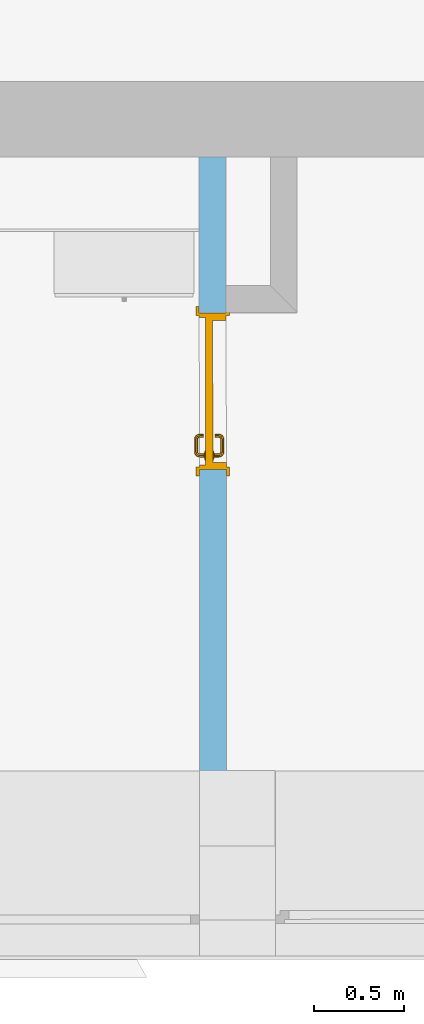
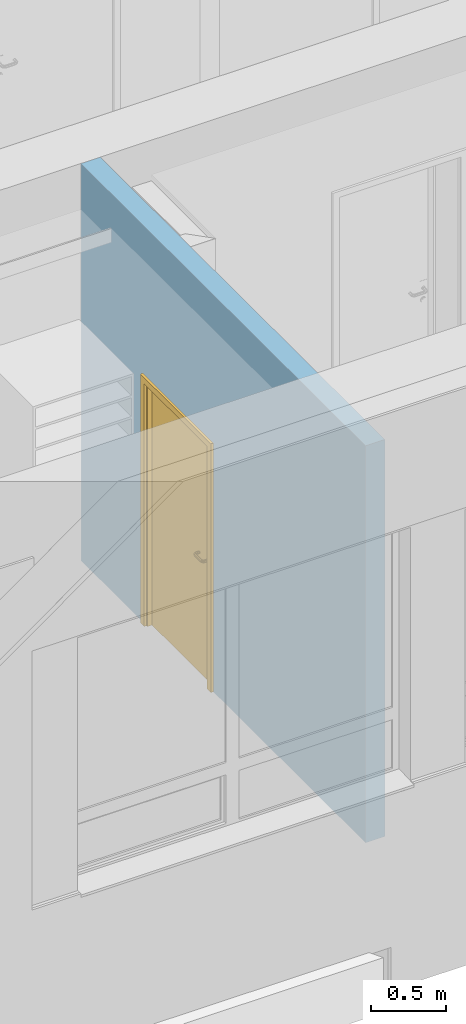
# One storey, part 51 of 194: 1 door, 1 opening, plus 1 element that does not belong to this part.
"""IFC2X3 building model written with IfcOpenShell, lengths in millimetres."""

import ifcopenshell
import ifcopenshell.guid

model = None  # the IFC model being written
_history = None  # IfcOwnerHistory: only IFC2X3 demands one
_inside = {}  # id of a spatial element -> (the spatial element, [elements in it])
_under = {}  # id of a project, library or spatial element -> (it, [spatial elements below it])
_declared = {}  # id of a project -> (the project, [libraries it declares])
_typed = {}  # id of a type object -> (the type object, [elements of that type])
_made_of = {}  # id of a material, layer set ... -> (it, [elements and type objects made of it])


def new_model(schema):
    """Start an empty IFC model of exactly this schema.

    Asked for "IFC4X3", IfcOpenShell would pick the latest addendum, in which some entities
    have other attributes; the version numbers below select the first issue.
    IFC2X3 requires an IfcOwnerHistory on every rooted entity: one is made here for all.
    """
    global model, _history
    if schema == "IFC4X3":
        model = ifcopenshell.file(schema_version=(4, 3, 0, 0))
    else:
        model = ifcopenshell.file(schema=schema)
    _inside.clear()
    _under.clear()
    _declared.clear()
    _typed.clear()
    _made_of.clear()
    _history = None
    if model.schema == "IFC2X3":
        org = make("IfcOrganization", Name="unknown")
        user = make(
            "IfcPersonAndOrganization",
            ThePerson=make("IfcPerson", FamilyName="unknown"),
            TheOrganization=org,
        )
        app = make(
            "IfcApplication",
            ApplicationDeveloper=org,
            Version="unknown",
            ApplicationFullName="unknown",
            ApplicationIdentifier="unknown",
        )
        _history = make(
            "IfcOwnerHistory",
            OwningUser=user,
            OwningApplication=app,
            ChangeAction="ADDED",
            CreationDate=0,
        )
    return model


def make(cls, **values):
    """One entity of the class cls with the attributes given. An attribute that is None is left unset."""
    return model.create_entity(
        cls, **{name: value for name, value in values.items() if value is not None}
    )


def entity(cls, *values):
    """Any entity or typed value of the class cls, its attributes in the order of the schema. None: left unset."""
    e = model.create_entity(cls)
    for i, value in enumerate(values):
        if value is not None:
            e[i] = value
    return e


def rooted(cls, **values):
    """An entity with a GlobalId (a new one), such as an element, a storey or a relation."""
    return make(cls, GlobalId=ifcopenshell.guid.new(), OwnerHistory=_history, **values)


def si_unit(unit_type, name, prefix=None):
    """IfcSIUnit, for example si_unit("LENGTHUNIT", "METRE", prefix="MILLI")."""
    return make("IfcSIUnit", UnitType=unit_type, Prefix=prefix, Name=name)


def converted_unit(unit_type, name, factor, base, dimensions=None, offset=None):
    """IfcConversionBasedUnit, such as the inch: factor (a typed value) times the base unit."""
    return make(
        "IfcConversionBasedUnit"
        if offset is None
        else "IfcConversionBasedUnitWithOffset",
        ConversionOffset=offset,
        Dimensions=None
        if dimensions is None
        else entity("IfcDimensionalExponents", *dimensions),
        UnitType=unit_type,
        Name=name,
        ConversionFactor=make(
            "IfcMeasureWithUnit", ValueComponent=factor, UnitComponent=base
        ),
    )


def derived_unit(unit_type, elements):
    """IfcDerivedUnit: a product of units, each with its exponent."""
    return make(
        "IfcDerivedUnit",
        Elements=[
            make("IfcDerivedUnitElement", Unit=unit, Exponent=power)
            for unit, power in elements
        ],
        UnitType=unit_type,
    )


def money_unit(currency):
    """IfcMonetaryUnit."""
    return make("IfcMonetaryUnit", Currency=currency)


def assignment(units):
    """IfcUnitAssignment: the units of a project."""
    return None if units is None else make("IfcUnitAssignment", Units=units)


def point(xyz):
    """IfcCartesianPoint."""
    return None if xyz is None else make("IfcCartesianPoint", Coordinates=xyz)


def direction(xyz):
    """IfcDirection."""
    return None if xyz is None else make("IfcDirection", DirectionRatios=xyz)


def frame(location, z_axis=None, x_axis=None):
    """IfcAxis2Placement3D, a coordinate frame: its origin and axes. An axis left out is left unset."""
    return make(
        "IfcAxis2Placement3D",
        Location=point(location),
        Axis=direction(z_axis),
        RefDirection=direction(x_axis),
    )


def frame_2d(location, x_axis=None):
    """IfcAxis2Placement2D, a coordinate frame in the plane: its origin and x axis."""
    return make(
        "IfcAxis2Placement2D", Location=point(location), RefDirection=direction(x_axis)
    )


def origin_with_axes():
    """The frame at (0, 0, 0) with the z axis (0, 0, 1) and the x axis (1, 0, 0) written out."""
    return frame((0.0, 0.0, 0.0), z_axis=(0.0, 0.0, 1.0), x_axis=(1.0, 0.0, 0.0))


def origin_2d_with_axis():
    """The frame at (0, 0) in the plane with the x axis (1, 0) written out."""
    return frame_2d((0.0, 0.0), x_axis=(1.0, 0.0))


def place(relative_to, where):
    """IfcLocalPlacement: puts the frame where relative to a parent placement (None: the world)."""
    return make(
        "IfcLocalPlacement", PlacementRelTo=relative_to, RelativePlacement=where
    )


def context(
    kind, dimensions, precision=None, world=None, true_north=None, identifier=None
):
    """IfcGeometricRepresentationContext, for example the 3D "Model" context."""
    return make(
        "IfcGeometricRepresentationContext",
        ContextIdentifier=identifier,
        ContextType=kind,
        CoordinateSpaceDimension=dimensions,
        Precision=precision,
        WorldCoordinateSystem=world,
        TrueNorth=true_north,
    )


def subcontext(parent, identifier, kind, view, scale=None):
    """IfcGeometricRepresentationSubContext, for example "Body" below "Model"."""
    return make(
        "IfcGeometricRepresentationSubContext",
        ContextIdentifier=identifier,
        ContextType=kind,
        ParentContext=parent,
        TargetScale=scale,
        TargetView=view,
    )


def project(units=None, contexts=None):
    """IfcProject with its units and contexts."""
    return rooted(
        "IfcProject",
        Name="project",
        RepresentationContexts=contexts,
        UnitsInContext=assignment(units),
    )


def spatial(cls, under=None, at=None, **own):
    """A site, building, storey or space (cls), placed at a placement, below another one or the project."""
    s = rooted(cls, ObjectPlacement=at, **own)
    if under is not None:
        _under.setdefault(under.id(), (under, []))[1].append(s)
    return s


def polyline(points):
    """IfcPolyline through the points."""
    return make("IfcPolyline", Points=[point(p) for p in points])


def profile(cls, at=None, kind="AREA", **sizes):
    """A parametric profile (cls). Its sizes go by their IFC names, for example OverallWidth=200.0."""
    return make(cls, ProfileType=kind, Position=at, **sizes)


def rectangle(**sizes):
    """IfcRectangleProfileDef."""
    return profile("IfcRectangleProfileDef", **sizes)


def outline(outer, holes=None, kind="AREA"):
    """IfcArbitraryClosedProfileDef: a profile drawn as a closed curve; with holes, ...WithVoids."""
    if holes is None:
        return make("IfcArbitraryClosedProfileDef", ProfileType=kind, OuterCurve=outer)
    return make(
        "IfcArbitraryProfileDefWithVoids",
        ProfileType=kind,
        OuterCurve=outer,
        InnerCurves=holes,
    )


def extrude(swept, where, along, depth):
    """IfcExtrudedAreaSolid: the profile swept, set in the frame where, extruded along a direction by depth."""
    return make(
        "IfcExtrudedAreaSolid",
        SweptArea=swept,
        Position=where,
        ExtrudedDirection=direction(along),
        Depth=depth,
    )


def faces_of(points, faces, orient=None, outer=None):
    """IfcFace entities. A face is a list of loops; a loop is a list of indices into points, from 0.

    orient and outer hold one flag for each loop. By default every Orientation is true, the
    first loop of a face is its IfcFaceOuterBound and the others are IfcFaceBound.
    """
    made = []
    for i, loops in enumerate(faces):
        bounds = []
        for j, loop in enumerate(loops):
            is_outer = j == 0 if outer is None else outer[i][j]
            bounds.append(
                make(
                    "IfcFaceOuterBound" if is_outer else "IfcFaceBound",
                    Bound=make("IfcPolyLoop", Polygon=[points[k] for k in loop]),
                    Orientation=True if orient is None else orient[i][j],
                )
            )
        made.append(make("IfcFace", Bounds=bounds))
    return made


def open_shell(faces, orient=None, outer=None):
    """The faces of one IfcOpenShell. surface_model builds it on its shared points."""
    return ("IfcOpenShell", faces, orient, outer)


def faceted_brep(points, faces, orient=None, outer=None, voids=None):
    """IfcFacetedBrep: a solid bounded by flat faces; with voids (closed shells), ...WithVoids."""
    shared = [point(p) for p in points]
    hull = make("IfcClosedShell", CfsFaces=faces_of(shared, faces, orient, outer))
    if voids is None:
        return make("IfcFacetedBrep", Outer=hull)
    return make(
        "IfcFacetedBrepWithVoids",
        Outer=hull,
        Voids=[
            make(cls, CfsFaces=faces_of(shared, fs, o, b)) for cls, fs, o, b in voids
        ],
    )


def surface_model(cls, points, shells):
    """IfcFaceBasedSurfaceModel or IfcShellBasedSurfaceModel (cls): surfaces that need not close."""
    shared = [point(p) for p in points]
    made = [make(c, CfsFaces=faces_of(shared, fs, o, b)) for c, fs, o, b in shells]
    if cls == "IfcFaceBasedSurfaceModel":
        return make(cls, FbsmFaces=made)
    return make(cls, SbsmBoundary=made)


def shape(context_of_items, identifier, shape_type, items):
    """IfcShapeRepresentation: the items that make up one representation, for example the "Body"."""
    return make(
        "IfcShapeRepresentation",
        ContextOfItems=context_of_items,
        RepresentationIdentifier=identifier,
        RepresentationType=shape_type,
        Items=items,
    )


def material(Name=None, Category=None):
    """IfcMaterial."""
    return make("IfcMaterial", Name=Name, Category=Category)


def layer(
    of_material, thickness, ventilated=None, Name=None, Category=None, Priority=None
):
    """IfcMaterialLayer: one layer of a wall or slab, of a material (None: an air gap)."""
    return make(
        "IfcMaterialLayer",
        Material=of_material,
        LayerThickness=thickness,
        IsVentilated=ventilated,
        Name=Name,
        Category=Category,
        Priority=Priority,
    )


def layer_set(layers, Name=None):
    """IfcMaterialLayerSet."""
    return make("IfcMaterialLayerSet", MaterialLayers=layers, LayerSetName=Name)


def layer_usage(for_layer_set, set_direction, sense, offset, extent=None):
    """IfcMaterialLayerSetUsage: how a layer set lies in its element."""
    return make(
        "IfcMaterialLayerSetUsage",
        ForLayerSet=for_layer_set,
        LayerSetDirection=set_direction,
        DirectionSense=sense,
        OffsetFromReferenceLine=offset,
        ReferenceExtent=extent,
    )


def made_of(thing, what):
    """Note that an element or type object is made of a material, layer set ...; save() writes the relation."""
    if what is not None:
        _made_of.setdefault(what.id(), (what, []))[1].append(thing)
    return thing


def type_object(cls, material=None, **own):
    """A type object (cls), such as IfcWallType, which elements share."""
    return made_of(rooted(cls, **own), material)


def element(
    cls,
    number,
    at=None,
    inside=None,
    cuts=None,
    type_object=None,
    material=None,
    context=None,
    identifier="Body",
    shape_type=None,
    held_by="IfcProductDefinitionShape",
    body=None,
    shapes=None,
    **own,
):
    """One element of the class cls, such as IfcWall. Its Tag is "e" and its number.

    at: its placement. inside: the storey or other place that contains it. cuts: it is an
    opening in that element (IfcRelVoidsElement). A single representation is given by context,
    identifier, shape_type and body (its items); several are given by shapes. held_by: the class
    of the entity that holds the representations. save() writes the other relations.
    """
    e = rooted(cls, Tag="e%d" % number, ObjectPlacement=at, **own)
    if body is not None:
        shapes = [shape(context, identifier, shape_type, body)]
    if shapes is not None:
        e.Representation = make(held_by, Representations=shapes)
    if inside is not None:
        _inside.setdefault(inside.id(), (inside, []))[1].append(e)
    if cuts is not None:
        rooted(
            "IfcRelVoidsElement", RelatingBuildingElement=cuts, RelatedOpeningElement=e
        )
    if type_object is not None:
        _typed.setdefault(type_object.id(), (type_object, []))[1].append(e)
    return made_of(e, material)


def fill(opening, filler):
    """IfcRelFillsElement: the door or window that sits in an opening."""
    return rooted(
        "IfcRelFillsElement",
        RelatingOpeningElement=opening,
        RelatedBuildingElement=filler,
    )


def aggregate(whole, parts):
    """IfcRelAggregates: a whole, such as a stair, and the parts it consists of."""
    return rooted("IfcRelAggregates", RelatingObject=whole, RelatedObjects=parts)


def save(model, path):
    """Write the relations noted so far, then the file.

    IfcRelAggregates (storeys below a building ...), IfcRelContainedInSpatialStructure (elements
    in a storey), IfcRelDefinesByType, IfcRelAssociatesMaterial and IfcRelDeclares: one each for
    every whole, place, type object, material and project.
    """
    for whole, parts in _under.values():
        aggregate(whole, parts)
    for where, things in _inside.values():
        rooted(
            "IfcRelContainedInSpatialStructure",
            RelatedElements=things,
            RelatingStructure=where,
        )
    for kind, things in _typed.values():
        rooted("IfcRelDefinesByType", RelatedObjects=things, RelatingType=kind)
    for what, things in _made_of.values():
        rooted("IfcRelAssociatesMaterial", RelatedObjects=things, RelatingMaterial=what)
    for by, libraries in _declared.values():
        rooted("IfcRelDeclares", RelatingContext=by, RelatedDefinitions=libraries)
    model.write(path)


model = new_model("IFC2X3")

# Units and contexts
model_context = context("Model", 3, precision=1e-05, world=origin_with_axes(), true_north=direction((0.0, 1.0)))
body_context = subcontext(model_context, "Body", "Model", "MODEL_VIEW")
ifc_project = project(units=[si_unit("LENGTHUNIT", "METRE", prefix="MILLI"), si_unit("AREAUNIT", "SQUARE_METRE"), si_unit("VOLUMEUNIT", "CUBIC_METRE"), converted_unit("PLANEANGLEUNIT", "DEGREE", entity("IfcPlaneAngleMeasure", 0.0174532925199), si_unit("PLANEANGLEUNIT", "RADIAN"), dimensions=[0, 0, 0, 0, 0, 0, 0]), si_unit("SOLIDANGLEUNIT", "STERADIAN"), money_unit("EUR"), converted_unit("TIMEUNIT", "Year", entity("IfcTimeMeasure", 31556926.0), si_unit("TIMEUNIT", "SECOND"), dimensions=[0, 0, 1, 0, 0, 0, 0]), si_unit("MASSUNIT", "GRAM", prefix="KILO"), si_unit("THERMODYNAMICTEMPERATUREUNIT", "DEGREE_CELSIUS"), si_unit("LUMINOUSINTENSITYUNIT", "LUMEN"), si_unit("ENERGYUNIT", "JOULE", prefix="MEGA"), derived_unit("THERMALCONDUCTANCEUNIT", [(si_unit("POWERUNIT", "WATT"), 1), (si_unit("LENGTHUNIT", "METRE"), -1), (si_unit("THERMODYNAMICTEMPERATUREUNIT", "KELVIN"), -1)]), derived_unit("SPECIFICHEATCAPACITYUNIT", [(si_unit("ENERGYUNIT", "JOULE"), 1), (si_unit("MASSUNIT", "GRAM", prefix="KILO"), -1), (si_unit("THERMODYNAMICTEMPERATUREUNIT", "KELVIN"), -1)]), derived_unit("MASSDENSITYUNIT", [(si_unit("MASSUNIT", "GRAM", prefix="KILO"), 1), (si_unit("VOLUMEUNIT", "CUBIC_METRE"), -1)])], contexts=[model_context])

# Site, building, storey
site_placement = place(None, origin_with_axes())
site = spatial("IfcSite", under=ifc_project, at=site_placement, Name="Site", CompositionType="ELEMENT")
building_placement = place(site_placement, origin_with_axes())
building = spatial("IfcBuilding", under=site, at=building_placement, Name="Building", CompositionType="ELEMENT")
storey_placement = place(building_placement, frame((0.0, 0.0, 3000.0), z_axis=(0.0, 0.0, 1.0), x_axis=(1.0, 0.0, 0.0)))
storey = spatial("IfcBuildingStorey", under=building, at=storey_placement, Name="2 KORRUS", CompositionType="ELEMENT", Elevation=3000.0)

# Wall, opening, door
ifc_material = material(Name="Kivi -Ol.Olev Konstruktsioon")
ifc_layer = layer(ifc_material, 150.0, ventilated="UNKNOWN")
ifc_layer_set = layer_set([ifc_layer], Name="ol.olev ss 150")
ifc_layer_usage = layer_usage(ifc_layer_set, "AXIS2", "POSITIVE", 0.0)
wall_type = type_object("IfcWallType", Name="SW - 022", PredefinedType="NOTDEFINED")
wall_placement = place(storey_placement, frame((21732.1185397, 39014.3351234, 0.0), z_axis=(0.0, 0.0, 1.0), x_axis=(0.000797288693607, -0.999999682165, 0.0)))
wall = element("IfcWallStandardCase", 1, at=wall_placement, inside=storey, type_object=wall_type, material=ifc_layer_usage, Name="ol.olev ss 150", context=body_context, shape_type="SweptSolid", body=[
    extrude(outline(polyline([(420.000133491, 0.0), (4234.39508937, -1.13686837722e-10), (4234.50189613, 150.0), (420.119726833, 150.0), (420.000133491, 0.0)])), origin_with_axes(), (0.0, 0.0, 1.0), 3250.0),
])
opening_placement = place(wall_placement, frame((1722.56035025, 0.0, 0.0), z_axis=(0.0, 0.0, 1.0), x_axis=(1.0, 0.0, 0.0)))
opening = element("IfcOpeningElement", 2, at=opening_placement, cuts=wall, Name="Siseuks * Door 22", context=body_context, shape_type="SweptSolid", body=[
    extrude(rectangle(XDim=870.0, YDim=2000.0, at=origin_2d_with_axis()), frame((-9.09494701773e-10, -150.0, 1000.0), z_axis=(0.0, 1.0, 0.0), x_axis=(-1.0, 0.0, 0.0)), (0.0, 0.0, 1.0), 450.0),
    extrude(rectangle(XDim=944.0, YDim=2037.0, at=origin_2d_with_axis()), frame((-9.09494701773e-10, 0.0, 1018.5), z_axis=(0.0, 1.0, 0.0), x_axis=(-1.0, 0.0, 0.0)), (0.0, 0.0, -1.0), 150.0),
    extrude(rectangle(XDim=944.0, YDim=2037.0, at=origin_2d_with_axis()), frame((0.0, 150.0, 1018.5), z_axis=(0.0, -1.0, 0.0), x_axis=(-1.0, 0.0, 0.0)), (0.0, 0.0, -1.0), 150.0),
])
door_style = type_object("IfcDoorStyle", Name="SU-B204   870×2\xa0000", ConstructionType="NOTDEFINED", OperationType="SINGLE_SWING_RIGHT", ParameterTakesPrecedence=False, Sizeable=False)
door_placement = place(opening_placement, frame((434.999999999, 1.13686837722e-10, 0.0), z_axis=(0.0, 0.0, 1.0), x_axis=(-1.0, 0.0, 0.0)))
door = element("IfcDoor", 3, at=door_placement, inside=storey, type_object=door_style, Name="Siseuks * Door 22", OverallHeight=2000.0, OverallWidth=870.0, context=body_context, shape_type="SurfaceModel", body=[
    faceted_brep([(0.0, -35.0, 0.0), (0.0, 0.0, 0.0), (24.9999999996, 1.13686837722e-10, 0.0), (24.9999999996, -35.0, 0.0), (0.0, -35.0, 2000.0), (0.0, 0.0, 2000.0), (24.9999999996, 1.13686837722e-10, 1975.0), (24.9999999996, -35.0, 1975.0)], [[[0, 1, 2, 3]], [[4, 5, 1, 0]], [[1, 5, 6, 2]], [[3, 2, 6, 7]], [[0, 3, 7, 4]], [[7, 6, 5, 4]]]),
    faceted_brep([(869.999999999, -34.9999999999, 2000.0), (870.0, 0.0, 2000.0), (845.0, 1.13686837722e-10, 1975.0), (844.999999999, -35.0, 1975.0), (869.999999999, -34.9999999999, 0.0), (870.0, 0.0, 0.0), (845.0, 1.13686837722e-10, 0.0), (844.999999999, -35.0, 0.0)], [[[0, 1, 2, 3]], [[4, 5, 1, 0]], [[1, 5, 6, 2]], [[3, 2, 6, 7]], [[0, 3, 7, 4]], [[7, 6, 5, 4]]]),
    faceted_brep([(24.9999999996, -35.0, 1975.0), (24.9999999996, 1.13686837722e-10, 1975.0), (845.0, 1.13686837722e-10, 1975.0), (844.999999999, -35.0, 1975.0), (0.0, -35.0, 2000.0), (0.0, 0.0, 2000.0), (870.0, 0.0, 2000.0), (869.999999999, -34.9999999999, 2000.0)], [[[0, 1, 2, 3]], [[4, 5, 1, 0]], [[1, 5, 6, 2]], [[3, 2, 6, 7]], [[0, 3, 7, 4]], [[7, 6, 5, 4]]]),
    faceted_brep([(-37.0000000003, 19.0, 0.0), (12.9999999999, 19.0, 0.0), (12.9999999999, 1.13686837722e-10, 0.0), (-36.9999999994, 1.13686837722e-10, 0.0), (-37.0000000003, 19.0, 2037.0), (12.9999999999, 19.0, 1987.0), (12.9999999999, 1.13686837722e-10, 1987.0), (-36.9999999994, 1.13686837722e-10, 2037.0)], [[[0, 1, 2, 3]], [[0, 4, 5, 1]], [[1, 5, 6, 2]], [[3, 2, 6, 7]], [[4, 0, 3, 7]], [[5, 4, 7, 6]]]),
    faceted_brep([(907.0, 19.0, 2037.0), (857.0, 19.0, 1987.0), (856.999999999, 1.13686837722e-10, 1987.0), (907.0, 1.13686837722e-10, 2037.0), (907.0, 19.0, 0.0), (857.0, 19.0, 0.0), (856.999999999, 1.13686837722e-10, 0.0), (907.0, 1.13686837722e-10, 0.0)], [[[0, 1, 2, 3]], [[0, 4, 5, 1]], [[1, 5, 6, 2]], [[3, 2, 6, 7]], [[4, 0, 3, 7]], [[5, 4, 7, 6]]]),
    faceted_brep([(-37.0000000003, 19.0, 2037.0), (12.9999999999, 19.0, 1987.0), (12.9999999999, 1.13686837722e-10, 1987.0), (-36.9999999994, 1.13686837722e-10, 2037.0), (907.0, 19.0, 2037.0), (857.0, 19.0, 1987.0), (856.999999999, 1.13686837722e-10, 1987.0), (907.0, 1.13686837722e-10, 2037.0)], [[[0, 1, 2, 3]], [[0, 4, 5, 1]], [[1, 5, 6, 2]], [[3, 2, 6, 7]], [[4, 0, 3, 7]], [[5, 4, 7, 6]]]),
    faceted_brep([(-36.9999999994, -169.0, 0.0), (-37.0000000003, -150.0, 0.0), (12.9999999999, -150.0, 0.0), (12.9999999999, -169.0, 0.0), (-36.9999999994, -169.0, 2037.0), (-37.0000000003, -150.0, 2037.0), (12.9999999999, -150.0, 1987.0), (12.9999999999, -169.0, 1987.0)], [[[0, 1, 2, 3]], [[4, 5, 1, 0]], [[1, 5, 6, 2]], [[3, 2, 6, 7]], [[0, 3, 7, 4]], [[7, 6, 5, 4]]]),
    faceted_brep([(907.0, -169.0, 2037.0), (907.0, -150.0, 2037.0), (857.0, -150.0, 1987.0), (856.999999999, -169.0, 1987.0), (907.0, -169.0, 0.0), (907.0, -150.0, 0.0), (857.0, -150.0, 0.0), (856.999999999, -169.0, 0.0)], [[[0, 1, 2, 3]], [[4, 5, 1, 0]], [[1, 5, 6, 2]], [[3, 2, 6, 7]], [[0, 3, 7, 4]], [[7, 6, 5, 4]]]),
    faceted_brep([(-36.9999999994, -169.0, 2037.0), (-37.0000000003, -150.0, 2037.0), (12.9999999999, -150.0, 1987.0), (12.9999999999, -169.0, 1987.0), (907.0, -169.0, 2037.0), (907.0, -150.0, 2037.0), (857.0, -150.0, 1987.0), (856.999999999, -169.0, 1987.0)], [[[0, 1, 2, 3]], [[4, 5, 1, 0]], [[1, 5, 6, 2]], [[3, 2, 6, 7]], [[0, 3, 7, 4]], [[7, 6, 5, 4]]]),
    faceted_brep([(40.0, -74.9999999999, 0.0), (40.0, -74.9999999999, 1960.0), (39.9999999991, -150.0, 1960.0), (39.9999999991, -150.0, 0.0), (28.0000000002, -74.9999999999, 1960.0), (28.0000000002, -74.9999999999, 0.0), (28.0000000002, -35.0, 1960.0), (0.0, -35.0, 1960.0), (0.0, -150.0, 1960.0), (0.0, -150.0, 0.0), (0.0, -35.0, 0.0), (28.0000000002, -35.0, 0.0)], [[[0, 1, 2, 3]], [[4, 1, 0, 5]], [[4, 6, 7, 8, 2, 1]], [[3, 2, 8, 9]], [[5, 0, 3, 9, 10, 11]], [[6, 4, 5, 11]], [[6, 11, 10, 7]], [[10, 9, 8, 7]]]),
    faceted_brep([(842.0, -75.0, 1960.0), (830.0, -74.9999999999, 1960.0), (830.0, -150.0, 1960.0), (870.0, -150.0, 1960.0), (869.999999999, -34.9999999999, 1960.0), (842.0, -35.0, 1960.0), (842.0, -75.0, 0.0), (830.0, -74.9999999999, 0.0), (830.0, -150.0, 0.0), (870.0, -150.0, 0.0), (869.999999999, -34.9999999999, 0.0), (842.0, -35.0, 0.0)], [[[0, 1, 2, 3, 4, 5]], [[1, 0, 6, 7]], [[1, 7, 8, 2]], [[3, 2, 8, 9]], [[4, 3, 9, 10]], [[11, 5, 4, 10]], [[0, 5, 11, 6]], [[6, 11, 10, 9, 8, 7]]]),
    faceted_brep([(28.0000000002, -35.0, 1972.0), (28.0000000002, -35.0, 1960.0), (0.0, -35.0, 1960.0), (0.0, -35.0, 2000.0), (869.999999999, -34.9999999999, 2000.0), (869.999999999, -34.9999999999, 1960.0), (842.0, -35.0, 1960.0), (842.0, -35.0, 1972.0), (28.0000000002, -74.9999999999, 1972.0), (28.0000000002, -74.9999999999, 1960.0), (40.0, -74.9999999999, 1960.0), (39.9999999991, -150.0, 1960.0), (0.0, -150.0, 1960.0), (0.0, -150.0, 2000.0), (870.0, -150.0, 2000.0), (870.0, -150.0, 1960.0), (842.0, -75.0, 1960.0), (830.0, -150.0, 1960.0), (830.0, -74.9999999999, 1960.0), (842.0, -75.0, 1972.0)], [[[0, 1, 2, 3, 4, 5, 6, 7]], [[1, 0, 8, 9]], [[9, 10, 11, 12, 2, 1]], [[2, 12, 13, 3]], [[3, 13, 14, 4]], [[4, 14, 15, 5]], [[16, 6, 5, 15, 17, 18]], [[7, 6, 16, 19]], [[0, 7, 19, 8]], [[16, 18, 10, 9, 8, 19]], [[10, 18, 17, 11]], [[17, 15, 14, 13, 12, 11]]]),
    faceted_brep([(49.4999999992, -74.9999999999, 1060.0), (49.5000000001, -78.0, 1060.0), (106.499999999, -77.9999999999, 1060.0), (106.5, -74.9999999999, 1060.0), (49.4999999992, -74.9999999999, 870.0), (49.5000000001, -78.0, 870.0), (106.499999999, -77.9999999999, 870.0), (106.5, -74.9999999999, 870.0)], [[[0, 1, 2, 3]], [[4, 5, 1, 0]], [[1, 5, 6, 2]], [[3, 2, 6, 7]], [[0, 3, 7, 4]], [[7, 6, 5, 4]]]),
    surface_model("IfcShellBasedSurfaceModel", [(87.9999999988, -88.0, 1000.0), (87.9999999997, -107.015085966, 1000.0), (85.0710678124, -107.303560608, 992.928932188), (85.0710678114, -87.9999999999, 992.928932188), (85.0710678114, -87.9999999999, 1007.07106781), (85.0710678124, -107.303560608, 1007.07106781), (88.9422033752, -111.751862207, 1000.0), (86.1832095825, -112.894674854, 992.928932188), (78.0000000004, -108.0, 990.0), (77.9999999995, -88.0, 990.0), (77.9999999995, -88.0, 1010.0), (78.0000000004, -108.0, 1010.0), (86.1832095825, -112.894674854, 1007.07106781), (91.0674625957, -114.932537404, 1000.0), (88.955820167, -117.044179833, 992.928932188), (79.522409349, -115.653668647, 990.0), (70.9289321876, -108.696439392, 992.928932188), (70.9289321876, -88.0, 992.928932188), (70.9289321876, -88.0, 1007.07106781), (70.9289321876, -108.696439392, 1007.07106781), (79.522409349, -115.653668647, 1010.0), (88.955820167, -117.044179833, 1007.07106781), (94.2481377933, -117.057796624, 1000.0), (93.1053251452, -119.816790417, 992.928932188), (83.8578643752, -122.142135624, 990.0), (72.8616091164, -118.41266244, 992.928932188), (67.9999999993, -108.984914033, 1000.0), (68.0000000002, -88.0, 1000.0), (72.8616091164, -118.41266244, 1007.07106781), (83.8578643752, -122.142135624, 1010.0), (93.1053251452, -119.816790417, 1007.07106781), (98.9849140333, -118.0, 1000.0), (98.6964393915, -120.928932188, 992.928932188), (90.3463313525, -126.47759065, 990.0), (78.7599085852, -127.240091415, 992.928932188), (70.1026153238, -119.555475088, 1000.0), (78.7599085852, -127.240091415, 1007.07106781), (90.3463313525, -126.47759065, 1010.0), (98.6964393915, -120.928932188, 1007.07106781), (167.015085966, -118.0, 1000.0), (167.303560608, -120.928932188, 992.928932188), (98.0, -128.0, 990.0), (87.5873375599, -133.138390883, 992.928932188), (76.6482661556, -129.351733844, 1000.0), (87.5873375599, -133.138390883, 1007.07106781), (98.0, -128.0, 1010.0), (167.303560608, -120.928932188, 1007.07106781), (171.751862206, -117.057796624, 1000.0), (172.894674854, -119.816790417, 992.928932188), (168.0, -128.0, 990.0), (97.3035606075, -135.071067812, 992.928932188), (86.4445249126, -135.897384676, 1000.0), (97.3035606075, -135.071067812, 1007.07106781), (168.0, -128.0, 1010.0), (172.894674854, -119.816790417, 1007.07106781), (174.932537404, -114.932537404, 1000.0), (177.044179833, -117.044179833, 992.928932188), (175.653668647, -126.47759065, 990.0), (168.696439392, -135.071067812, 992.928932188), (97.0150859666, -138.0, 1000.0), (168.696439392, -135.071067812, 1007.07106781), (175.653668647, -126.47759065, 1010.0), (177.044179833, -117.044179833, 1007.07106781), (177.057796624, -111.751862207, 1000.0), (179.816790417, -112.894674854, 992.928932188), (182.142135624, -122.142135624, 990.0), (178.412662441, -133.138390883, 992.928932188), (168.984914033, -138.0, 1000.0), (178.412662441, -133.138390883, 1007.07106781), (182.142135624, -122.142135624, 1010.0), (179.816790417, -112.894674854, 1007.07106781), (177.999999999, -107.015085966, 1000.0), (180.928932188, -107.303560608, 992.928932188), (186.47759065, -115.653668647, 990.0), (187.240091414, -127.240091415, 992.928932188), (179.555475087, -135.897384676, 1000.0), (187.240091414, -127.240091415, 1007.07106781), (186.47759065, -115.653668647, 1010.0), (180.928932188, -107.303560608, 1007.07106781), (178.000000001, -88.0, 1000.0), (180.928932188, -88.0, 992.928932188), (188.0, -108.0, 990.0), (193.138390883, -118.41266244, 992.928932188), (189.351733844, -129.351733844, 1000.0), (193.138390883, -118.41266244, 1007.07106781), (188.0, -108.0, 1010.0), (180.928932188, -88.0, 1007.07106781), (188.0, -88.0, 1010.0), (195.071067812, -88.0, 1007.07106781), (198.0, -88.0, 1000.0), (195.071067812, -88.0, 992.928932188), (188.0, -88.0, 990.0), (195.071067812, -108.696439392, 992.928932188), (195.897384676, -119.555475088, 1000.0), (195.071067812, -108.696439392, 1007.07106781), (198.0, -108.984914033, 1000.0)], [open_shell([[[0, 1, 2, 3]], [[4, 5, 1, 0]], [[1, 6, 7, 2]], [[3, 2, 8, 9]], [[10, 11, 5, 4]], [[5, 12, 6, 1]], [[6, 13, 14, 7]], [[2, 7, 15, 8]], [[9, 8, 16, 17]], [[18, 19, 11, 10]], [[11, 20, 12, 5]], [[12, 21, 13, 6]], [[13, 22, 23, 14]], [[7, 14, 24, 15]], [[8, 15, 25, 16]], [[17, 16, 26, 27]], [[27, 26, 19, 18]], [[19, 28, 20, 11]], [[20, 29, 21, 12]], [[21, 30, 22, 13]], [[22, 31, 32, 23]], [[14, 23, 33, 24]], [[15, 24, 34, 25]], [[16, 25, 35, 26]], [[26, 35, 28, 19]], [[28, 36, 29, 20]], [[29, 37, 30, 21]], [[30, 38, 31, 22]], [[31, 39, 40, 32]], [[23, 32, 41, 33]], [[24, 33, 42, 34]], [[25, 34, 43, 35]], [[35, 43, 36, 28]], [[36, 44, 37, 29]], [[37, 45, 38, 30]], [[38, 46, 39, 31]], [[39, 47, 48, 40]], [[32, 40, 49, 41]], [[33, 41, 50, 42]], [[34, 42, 51, 43]], [[43, 51, 44, 36]], [[44, 52, 45, 37]], [[45, 53, 46, 38]], [[46, 54, 47, 39]], [[47, 55, 56, 48]], [[40, 48, 57, 49]], [[41, 49, 58, 50]], [[42, 50, 59, 51]], [[51, 59, 52, 44]], [[52, 60, 53, 45]], [[53, 61, 54, 46]], [[54, 62, 55, 47]], [[55, 63, 64, 56]], [[48, 56, 65, 57]], [[49, 57, 66, 58]], [[50, 58, 67, 59]], [[59, 67, 60, 52]], [[60, 68, 61, 53]], [[61, 69, 62, 54]], [[62, 70, 63, 55]], [[63, 71, 72, 64]], [[56, 64, 73, 65]], [[57, 65, 74, 66]], [[58, 66, 75, 67]], [[67, 75, 68, 60]], [[68, 76, 69, 61]], [[69, 77, 70, 62]], [[70, 78, 71, 63]], [[71, 79, 80, 72]], [[64, 72, 81, 73]], [[65, 73, 82, 74]], [[66, 74, 83, 75]], [[75, 83, 76, 68]], [[76, 84, 77, 69]], [[77, 85, 78, 70]], [[78, 86, 79, 71]], [[79, 86, 87, 88, 89, 90, 91, 80]], [[72, 80, 91, 81]], [[73, 81, 92, 82]], [[74, 82, 93, 83]], [[83, 93, 84, 76]], [[84, 94, 85, 77]], [[85, 87, 86, 78]], [[94, 88, 87, 85]], [[95, 89, 88, 94]], [[92, 90, 89, 95]], [[81, 91, 90, 92]], [[82, 92, 95, 93]], [[93, 95, 94, 84]]])]),
    faceted_brep([(88.3923048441, -88.0, 994.0), (89.2583302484, -78.0, 993.5), (90.9999999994, -78.0, 1000.0), (90.0000000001, -87.9999999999, 1000.0), (83.9999999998, -87.9999999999, 989.607695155), (84.499999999, -78.0, 988.741669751), (77.9999999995, -78.0, 987.0), (71.4999999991, -77.9999999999, 988.741669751), (66.7416697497, -78.0, 993.5), (64.9999999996, -78.0, 1000.0), (66.7416697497, -78.0, 1006.5), (71.4999999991, -77.9999999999, 1011.25833025), (77.9999999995, -78.0, 1013.0), (84.499999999, -78.0, 1011.25833025), (89.2583302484, -78.0, 1006.5), (88.3923048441, -88.0, 1006.0), (83.9999999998, -87.9999999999, 1010.39230485), (77.9999999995, -88.0, 1012.0), (71.9999999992, -88.0, 1010.39230485), (67.6076951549, -88.0, 1006.0), (66.0000000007, -88.0, 1000.0), (67.6076951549, -88.0, 994.0), (71.9999999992, -88.0, 989.607695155), (77.9999999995, -88.0, 988.0)], [[[0, 1, 2, 3]], [[4, 5, 1, 0]], [[2, 1, 5, 6, 7, 8, 9, 10, 11, 12, 13, 14]], [[3, 2, 14, 15]], [[3, 15, 16, 17, 18, 19, 20, 21, 22, 23, 4, 0]], [[23, 6, 5, 4]], [[22, 7, 6, 23]], [[21, 8, 7, 22]], [[20, 9, 8, 21]], [[19, 10, 9, 20]], [[18, 11, 10, 19]], [[17, 12, 11, 18]], [[16, 13, 12, 17]], [[15, 14, 13, 16]]]),
    faceted_brep([(95.320508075, -82.0, 895.0), (97.0525588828, -78.0, 894.0), (99.9999999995, -78.0, 905.0), (97.999999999, -82.0, 905.0), (87.9999999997, -81.9999999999, 887.679491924), (88.9999999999, -78.0, 885.947441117), (77.9999999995, -78.0, 883.0), (67.0, -78.0, 885.947441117), (58.9474411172, -78.0, 894.0), (55.9999999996, -78.0, 905.0), (58.9474411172, -78.0, 916.0), (67.0, -78.0, 924.052558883), (77.9999999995, -78.0, 927.0), (88.9999999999, -78.0, 924.052558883), (97.0525588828, -78.0, 916.0), (95.320508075, -82.0, 915.0), (87.9999999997, -81.9999999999, 922.320508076), (77.9999999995, -81.9999999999, 925.0), (67.9999999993, -82.0, 922.320508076), (60.6794919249, -81.9999999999, 915.0), (58.0, -82.0, 905.0), (60.6794919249, -81.9999999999, 895.0), (67.9999999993, -82.0, 887.679491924), (77.9999999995, -81.9999999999, 885.0)], [[[0, 1, 2, 3]], [[4, 5, 1, 0]], [[2, 1, 5, 6, 7, 8, 9, 10, 11, 12, 13, 14]], [[3, 2, 14, 15]], [[3, 15, 16, 17, 18, 19, 20, 21, 22, 23, 4, 0]], [[23, 6, 5, 4]], [[22, 7, 6, 23]], [[21, 8, 7, 22]], [[20, 9, 8, 21]], [[19, 10, 9, 20]], [[18, 11, 10, 19]], [[17, 12, 11, 18]], [[16, 13, 12, 17]], [[15, 14, 13, 16]]]),
    faceted_brep([(82.9497474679, -83.9999999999, 909.050252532), (83.6568542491, -82.0, 908.343145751), (86.0000000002, -82.0, 914.0), (85.0, -83.9999999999, 914.0), (78.0000000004, -83.9999999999, 907.0), (77.9999999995, -81.9999999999, 906.0), (72.3431457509, -82.0, 908.343145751), (69.9999999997, -82.0, 914.0), (72.3431457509, -82.0, 919.656854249), (77.9999999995, -81.9999999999, 922.0), (83.6568542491, -82.0, 919.656854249), (82.9497474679, -83.9999999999, 918.949747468), (78.0000000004, -83.9999999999, 921.0), (73.0502525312, -84.0000000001, 918.949747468), (70.999999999, -83.9999999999, 914.0), (73.0502525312, -84.0000000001, 909.050252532)], [[[0, 1, 2, 3]], [[4, 5, 1, 0]], [[2, 1, 5, 6, 7, 8, 9, 10]], [[3, 2, 10, 11]], [[3, 11, 12, 13, 14, 15, 4, 0]], [[15, 6, 5, 4]], [[14, 7, 6, 15]], [[13, 8, 7, 14]], [[12, 9, 8, 13]], [[11, 10, 9, 12]]]),
    faceted_brep([(49.5000000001, -35.0, 1060.0), (106.5, -35.0, 1060.0), (106.5, -32.0, 1060.0), (49.5000000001, -31.9999999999, 1060.0), (49.5000000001, -35.0, 870.0), (106.5, -35.0, 870.0), (106.5, -32.0, 870.0), (49.5000000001, -31.9999999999, 870.0)], [[[0, 1, 2, 3]], [[0, 4, 5, 1]], [[1, 5, 6, 2]], [[3, 2, 6, 7]], [[4, 0, 3, 7]], [[5, 4, 7, 6]]]),
    surface_model("IfcShellBasedSurfaceModel", [(87.9999999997, -21.9999999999, 1000.0), (85.0710678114, -21.9999999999, 992.928932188), (85.0710678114, -2.69643939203, 992.928932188), (87.9999999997, -2.98491403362, 1000.0), (77.9999999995, -21.9999999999, 990.0), (77.9999999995, -1.99999999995, 990.0), (86.1832095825, 2.89467485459, 992.928932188), (88.9422033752, 1.7518622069, 1000.0), (85.0710678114, -21.9999999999, 1007.07106781), (85.0710678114, -2.69643939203, 1007.07106781), (70.9289321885, -21.9999999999, 992.928932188), (70.9289321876, -1.30356060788, 992.928932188), (79.5224093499, 5.65366864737, 990.0), (88.955820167, 7.04417983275, 992.928932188), (91.0674625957, 4.93253740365, 1000.0), (86.1832095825, 2.89467485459, 1007.07106781), (77.9999999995, -21.9999999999, 1010.0), (77.9999999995, -1.99999999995, 1010.0), (68.0000000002, -21.9999999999, 1000.0), (67.9999999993, -1.0150859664, 1000.0), (72.8616091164, 8.41266244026, 992.928932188), (83.8578643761, 12.1421356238, 990.0), (93.1053251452, 9.81679041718, 992.928932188), (94.2481377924, 7.05779662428, 1000.0), (88.955820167, 7.04417983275, 1007.07106781), (79.5224093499, 5.65366864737, 1010.0), (70.9289321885, -21.9999999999, 1007.07106781), (70.9289321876, -1.30356060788, 1007.07106781), (70.1026153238, 9.55547508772, 1000.0), (78.7599085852, 17.2400914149, 992.928932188), (90.3463313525, 16.4775906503, 990.0), (98.6964393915, 10.9289321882, 992.928932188), (98.9849140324, 8.00000000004, 1000.0), (93.1053251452, 9.81679041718, 1007.07106781), (83.8578643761, 12.1421356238, 1010.0), (72.8616091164, 8.41266244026, 1007.07106781), (76.6482661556, 19.3517338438, 1000.0), (87.5873375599, 23.1383908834, 992.928932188), (97.999999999, 18.0, 990.0), (167.303560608, 10.9289321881, 992.928932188), (167.015085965, 8.00000000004, 1000.0), (98.6964393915, 10.9289321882, 1007.07106781), (90.3463313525, 16.4775906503, 1010.0), (78.7599085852, 17.2400914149, 1007.07106781), (86.4445249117, 25.8973846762, 1000.0), (97.3035606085, 25.0710678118, 992.928932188), (168.0, 18.0, 990.0), (172.894674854, 9.81679041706, 992.928932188), (171.751862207, 7.05779662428, 1000.0), (167.303560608, 10.9289321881, 1007.07106781), (97.999999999, 18.0, 1010.0), (87.5873375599, 23.1383908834, 1007.07106781), (97.0150859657, 28.0, 1000.0), (168.696439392, 25.0710678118, 992.928932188), (175.653668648, 16.4775906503, 990.0), (177.044179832, 7.04417983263, 992.928932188), (174.932537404, 4.93253740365, 1000.0), (172.894674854, 9.81679041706, 1007.07106781), (168.0, 18.0, 1010.0), (97.3035606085, 25.0710678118, 1007.07106781), (168.984914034, 28.0000000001, 1000.0), (178.41266244, 23.1383908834, 992.928932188), (182.142135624, 12.1421356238, 990.0), (179.816790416, 2.89467485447, 992.928932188), (177.057796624, 1.75186220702, 1000.0), (177.044179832, 7.04417983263, 1007.07106781), (175.653668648, 16.4775906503, 1010.0), (168.696439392, 25.0710678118, 1007.07106781), (179.555475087, 25.8973846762, 1000.0), (187.240091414, 17.2400914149, 992.928932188), (186.47759065, 5.65366864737, 990.0), (180.928932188, -2.69643939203, 992.928932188), (178.0, -2.9849140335, 1000.0), (179.816790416, 2.89467485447, 1007.07106781), (182.142135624, 12.1421356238, 1010.0), (178.41266244, 23.1383908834, 1007.07106781), (189.351733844, 19.3517338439, 1000.0), (193.138390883, 8.41266244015, 992.928932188), (187.999999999, -1.99999999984, 990.0), (180.928932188, -22.0, 992.928932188), (178.0, -22.0, 1000.0), (180.928932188, -2.69643939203, 1007.07106781), (186.47759065, 5.65366864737, 1010.0), (187.240091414, 17.2400914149, 1007.07106781), (195.897384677, 9.55547508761, 1000.0), (195.071067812, -1.30356060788, 992.928932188), (188.0, -21.9999999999, 990.0), (195.071067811, -22.0, 992.928932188), (197.999999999, -21.9999999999, 1000.0), (195.071067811, -22.0, 1007.07106781), (188.0, -21.9999999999, 1010.0), (180.928932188, -22.0, 1007.07106781), (187.999999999, -1.99999999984, 1010.0), (193.138390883, 8.41266244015, 1007.07106781), (198.0, -1.0150859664, 1000.0), (195.071067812, -1.30356060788, 1007.07106781)], [open_shell([[[0, 1, 2, 3]], [[1, 4, 5, 2]], [[3, 2, 6, 7]], [[8, 0, 3, 9]], [[4, 10, 11, 5]], [[2, 5, 12, 6]], [[7, 6, 13, 14]], [[9, 3, 7, 15]], [[16, 8, 9, 17]], [[10, 18, 19, 11]], [[5, 11, 20, 12]], [[6, 12, 21, 13]], [[14, 13, 22, 23]], [[15, 7, 14, 24]], [[17, 9, 15, 25]], [[26, 16, 17, 27]], [[18, 26, 27, 19]], [[11, 19, 28, 20]], [[12, 20, 29, 21]], [[13, 21, 30, 22]], [[23, 22, 31, 32]], [[24, 14, 23, 33]], [[25, 15, 24, 34]], [[27, 17, 25, 35]], [[19, 27, 35, 28]], [[20, 28, 36, 29]], [[21, 29, 37, 30]], [[22, 30, 38, 31]], [[32, 31, 39, 40]], [[33, 23, 32, 41]], [[34, 24, 33, 42]], [[35, 25, 34, 43]], [[28, 35, 43, 36]], [[29, 36, 44, 37]], [[30, 37, 45, 38]], [[31, 38, 46, 39]], [[40, 39, 47, 48]], [[41, 32, 40, 49]], [[42, 33, 41, 50]], [[43, 34, 42, 51]], [[36, 43, 51, 44]], [[37, 44, 52, 45]], [[38, 45, 53, 46]], [[39, 46, 54, 47]], [[48, 47, 55, 56]], [[49, 40, 48, 57]], [[50, 41, 49, 58]], [[51, 42, 50, 59]], [[44, 51, 59, 52]], [[45, 52, 60, 53]], [[46, 53, 61, 54]], [[47, 54, 62, 55]], [[56, 55, 63, 64]], [[57, 48, 56, 65]], [[58, 49, 57, 66]], [[59, 50, 58, 67]], [[52, 59, 67, 60]], [[53, 60, 68, 61]], [[54, 61, 69, 62]], [[55, 62, 70, 63]], [[64, 63, 71, 72]], [[65, 56, 64, 73]], [[66, 57, 65, 74]], [[67, 58, 66, 75]], [[60, 67, 75, 68]], [[61, 68, 76, 69]], [[62, 69, 77, 70]], [[63, 70, 78, 71]], [[72, 71, 79, 80]], [[73, 64, 72, 81]], [[74, 65, 73, 82]], [[75, 66, 74, 83]], [[68, 75, 83, 76]], [[69, 76, 84, 77]], [[70, 77, 85, 78]], [[71, 78, 86, 79]], [[80, 79, 86, 87, 88, 89, 90, 91]], [[81, 72, 80, 91]], [[82, 73, 81, 92]], [[83, 74, 82, 93]], [[76, 83, 93, 84]], [[77, 84, 94, 85]], [[78, 85, 87, 86]], [[85, 94, 88, 87]], [[94, 95, 89, 88]], [[95, 92, 90, 89]], [[92, 81, 91, 90]], [[93, 82, 92, 95]], [[84, 93, 95, 94]]])]),
    faceted_brep([(88.3923048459, -21.9999999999, 994.0), (90.0000000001, -21.9999999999, 1000.0), (91.0000000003, -31.9999999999, 1000.0), (89.2583302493, -31.9999999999, 993.5), (84.0000000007, -21.9999999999, 989.607695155), (77.9999999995, -21.9999999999, 988.0), (72.0000000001, -21.9999999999, 989.607695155), (67.6076951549, -21.9999999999, 994.0), (65.9999999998, -21.9999999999, 1000.0), (67.6076951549, -21.9999999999, 1006.0), (72.0000000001, -21.9999999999, 1010.39230485), (77.9999999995, -21.9999999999, 1012.0), (84.0000000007, -21.9999999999, 1010.39230485), (88.3923048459, -21.9999999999, 1006.0), (89.2583302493, -31.9999999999, 1006.5), (84.4999999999, -31.9999999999, 1011.25833025), (78.0000000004, -31.9999999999, 1013.0), (71.5, -32.0, 1011.25833025), (66.7416697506, -31.9999999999, 1006.5), (65.0000000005, -31.9999999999, 1000.0), (66.7416697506, -31.9999999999, 993.5), (71.5, -32.0, 988.741669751), (78.0000000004, -31.9999999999, 987.0), (84.4999999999, -31.9999999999, 988.741669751)], [[[0, 1, 2, 3]], [[1, 0, 4, 5, 6, 7, 8, 9, 10, 11, 12, 13]], [[1, 13, 14, 2]], [[2, 14, 15, 16, 17, 18, 19, 20, 21, 22, 23, 3]], [[4, 0, 3, 23]], [[5, 4, 23, 22]], [[6, 5, 22, 21]], [[7, 6, 21, 20]], [[8, 7, 20, 19]], [[9, 8, 19, 18]], [[10, 9, 18, 17]], [[11, 10, 17, 16]], [[12, 11, 16, 15]], [[13, 12, 15, 14]]]),
    faceted_brep([(95.320508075, -27.9999999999, 895.0), (98.0, -27.9999999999, 905.0), (99.9999999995, -31.9999999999, 905.0), (97.0525588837, -32.0, 894.0), (87.9999999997, -27.9999999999, 887.679491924), (78.0000000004, -27.9999999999, 885.0), (67.9999999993, -28.0, 887.679491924), (60.6794919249, -27.9999999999, 895.0), (58.0, -27.9999999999, 905.0), (60.6794919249, -27.9999999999, 915.0), (67.9999999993, -28.0, 922.320508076), (78.0000000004, -27.9999999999, 925.0), (87.9999999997, -27.9999999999, 922.320508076), (95.320508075, -27.9999999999, 915.0), (97.0525588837, -32.0, 916.0), (88.9999999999, -32.0, 924.052558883), (78.0000000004, -31.9999999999, 927.0), (67.0, -32.0, 924.052558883), (58.9474411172, -32.0, 916.0), (56.0000000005, -31.9999999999, 905.0), (58.9474411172, -32.0, 894.0), (67.0, -32.0, 885.947441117), (78.0000000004, -31.9999999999, 883.0), (88.9999999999, -32.0, 885.947441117)], [[[0, 1, 2, 3]], [[1, 0, 4, 5, 6, 7, 8, 9, 10, 11, 12, 13]], [[1, 13, 14, 2]], [[2, 14, 15, 16, 17, 18, 19, 20, 21, 22, 23, 3]], [[4, 0, 3, 23]], [[5, 4, 23, 22]], [[6, 5, 22, 21]], [[7, 6, 21, 20]], [[8, 7, 20, 19]], [[9, 8, 19, 18]], [[10, 9, 18, 17]], [[11, 10, 17, 16]], [[12, 11, 16, 15]], [[13, 12, 15, 14]]]),
    faceted_brep([(82.9497474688, -26.0, 909.050252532), (85.0, -26.0000000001, 914.0), (85.9999999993, -28.0, 914.0), (83.6568542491, -27.9999999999, 908.343145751), (77.9999999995, -26.0, 907.0), (73.0502525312, -25.9999999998, 909.050252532), (70.9999999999, -26.0000000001, 914.0), (73.0502525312, -25.9999999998, 918.949747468), (77.9999999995, -26.0, 921.0), (82.9497474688, -26.0, 918.949747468), (83.6568542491, -27.9999999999, 919.656854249), (78.0000000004, -27.9999999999, 922.0), (72.3431457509, -27.9999999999, 919.656854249), (69.9999999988, -27.9999999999, 914.0), (72.3431457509, -27.9999999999, 908.343145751), (78.0000000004, -27.9999999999, 906.0)], [[[0, 1, 2, 3]], [[1, 0, 4, 5, 6, 7, 8, 9]], [[1, 9, 10, 2]], [[2, 10, 11, 12, 13, 14, 15, 3]], [[4, 0, 3, 15]], [[5, 4, 15, 14]], [[6, 5, 14, 13]], [[7, 6, 13, 12]], [[8, 7, 12, 11]], [[9, 8, 11, 10]]]),
    faceted_brep([(842.0, -35.0, 0.0), (842.0, -75.0, 0.0), (28.0000000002, -74.9999999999, 0.0), (28.0000000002, -35.0, 0.0), (842.0, -35.0, 1972.0), (842.0, -75.0, 1972.0), (28.0000000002, -74.9999999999, 1972.0), (28.0000000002, -35.0, 1972.0)], [[[0, 1, 2, 3]], [[4, 5, 1, 0]], [[1, 5, 6, 2]], [[3, 2, 6, 7]], [[0, 3, 7, 4]], [[7, 6, 5, 4]]]),
])
fill(opening, door)

save(model, "model.ifc")
